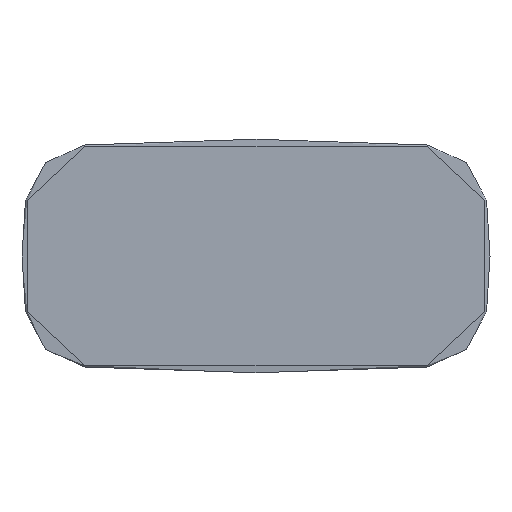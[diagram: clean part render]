
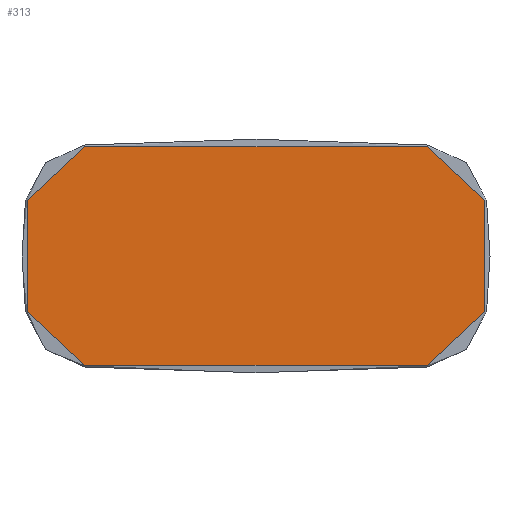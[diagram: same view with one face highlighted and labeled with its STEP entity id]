
A CAD part, top view. The second image highlights one B-rep face of the part: STEP entity #313.
In plain terms, the highlighted planar face has unit normal (0, 0, 1).
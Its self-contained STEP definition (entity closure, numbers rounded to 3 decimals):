
#119=(
BOUNDED_CURVE()
B_SPLINE_CURVE(2,(#17162,#17163,#17164),.UNSPECIFIED.,.F.,.F.)
B_SPLINE_CURVE_WITH_KNOTS((3,3),(0.,289.994),.UNSPECIFIED.)
CURVE()
GEOMETRIC_REPRESENTATION_ITEM()
RATIONAL_B_SPLINE_CURVE((1.,0.779,1.))
REPRESENTATION_ITEM('')
);
#125=(
BOUNDED_CURVE()
B_SPLINE_CURVE(2,(#17180,#17181,#17182),.UNSPECIFIED.,.F.,.F.)
B_SPLINE_CURVE_WITH_KNOTS((3,3),(0.,380.569),
 .UNSPECIFIED.)
CURVE()
GEOMETRIC_REPRESENTATION_ITEM()
RATIONAL_B_SPLINE_CURVE((1.,0.99,1.))
REPRESENTATION_ITEM('')
);
#130=(
BOUNDED_CURVE()
B_SPLINE_CURVE(2,(#17195,#17196,#17197),.UNSPECIFIED.,.F.,.F.)
B_SPLINE_CURVE_WITH_KNOTS((3,3),(0.,289.994),.UNSPECIFIED.)
CURVE()
GEOMETRIC_REPRESENTATION_ITEM()
RATIONAL_B_SPLINE_CURVE((1.,0.779,1.))
REPRESENTATION_ITEM('')
);
#135=(
BOUNDED_CURVE()
B_SPLINE_CURVE(2,(#17210,#17211,#17212),.UNSPECIFIED.,.F.,.F.)
B_SPLINE_CURVE_WITH_KNOTS((3,3),(0.,1169.53),.UNSPECIFIED.)
CURVE()
GEOMETRIC_REPRESENTATION_ITEM()
RATIONAL_B_SPLINE_CURVE((1.,0.997,1.))
REPRESENTATION_ITEM('')
);
#140=(
BOUNDED_CURVE()
B_SPLINE_CURVE(2,(#17225,#17226,#17227),.UNSPECIFIED.,.F.,.F.)
B_SPLINE_CURVE_WITH_KNOTS((3,3),(0.,289.994),.UNSPECIFIED.)
CURVE()
GEOMETRIC_REPRESENTATION_ITEM()
RATIONAL_B_SPLINE_CURVE((1.,0.779,1.))
REPRESENTATION_ITEM('')
);
#145=(
BOUNDED_CURVE()
B_SPLINE_CURVE(2,(#17240,#17241,#17242),.UNSPECIFIED.,.F.,.F.)
B_SPLINE_CURVE_WITH_KNOTS((3,3),(0.,380.569),.UNSPECIFIED.)
CURVE()
GEOMETRIC_REPRESENTATION_ITEM()
RATIONAL_B_SPLINE_CURVE((1.,0.99,1.))
REPRESENTATION_ITEM('')
);
#150=(
BOUNDED_CURVE()
B_SPLINE_CURVE(2,(#17255,#17256,#17257),.UNSPECIFIED.,.F.,.F.)
B_SPLINE_CURVE_WITH_KNOTS((3,3),(0.,289.994),.UNSPECIFIED.)
CURVE()
GEOMETRIC_REPRESENTATION_ITEM()
RATIONAL_B_SPLINE_CURVE((1.,0.779,1.))
REPRESENTATION_ITEM('')
);
#153=(
BOUNDED_CURVE()
B_SPLINE_CURVE(2,(#17264,#17265,#17266),.UNSPECIFIED.,.F.,.F.)
B_SPLINE_CURVE_WITH_KNOTS((3,3),(0.,1169.53),.UNSPECIFIED.)
CURVE()
GEOMETRIC_REPRESENTATION_ITEM()
RATIONAL_B_SPLINE_CURVE((1.,0.997,1.))
REPRESENTATION_ITEM('')
);
#313=ADVANCED_FACE('',(#470),#2286,.T.);
#470=FACE_OUTER_BOUND('',#627,.T.);
#627=EDGE_LOOP('',(#1256,#1257,#1258,#1259,#1260,#1261,#1262,#1263));
#1256=ORIENTED_EDGE('',*,*,#1704,.T.);
#1257=ORIENTED_EDGE('',*,*,#1707,.T.);
#1258=ORIENTED_EDGE('',*,*,#1673,.T.);
#1259=ORIENTED_EDGE('',*,*,#1679,.T.);
#1260=ORIENTED_EDGE('',*,*,#1684,.T.);
#1261=ORIENTED_EDGE('',*,*,#1689,.T.);
#1262=ORIENTED_EDGE('',*,*,#1694,.T.);
#1263=ORIENTED_EDGE('',*,*,#1699,.T.);
#1673=EDGE_CURVE('',#2252,#2253,#119,.T.);
#1679=EDGE_CURVE('',#2253,#2249,#125,.T.);
#1684=EDGE_CURVE('',#2249,#2250,#130,.T.);
#1689=EDGE_CURVE('',#2250,#2251,#135,.T.);
#1694=EDGE_CURVE('',#2251,#2248,#140,.T.);
#1699=EDGE_CURVE('',#2248,#2246,#145,.T.);
#1704=EDGE_CURVE('',#2246,#2247,#150,.T.);
#1707=EDGE_CURVE('',#2247,#2252,#153,.T.);
#2246=VERTEX_POINT('',#17131);
#2247=VERTEX_POINT('',#17132);
#2248=VERTEX_POINT('',#17133);
#2249=VERTEX_POINT('',#17134);
#2250=VERTEX_POINT('',#17135);
#2251=VERTEX_POINT('',#17136);
#2252=VERTEX_POINT('',#17137);
#2253=VERTEX_POINT('',#17138);
#2286=PLANE('',#2531);
#2531=AXIS2_PLACEMENT_3D('',#16978,#2567,$);
#2567=DIRECTION('',(0.,0.,1.));
#16978=CARTESIAN_POINT('',(271.972,-895.243,58.434));
#17131=CARTESIAN_POINT('',(2052.424,-205.603,58.434));
#17132=CARTESIAN_POINT('',(1856.216,-22.593,58.434));
#17133=CARTESIAN_POINT('',(2052.424,-584.883,58.434));
#17134=CARTESIAN_POINT('',(491.519,-584.883,58.434));
#17135=CARTESIAN_POINT('',(687.727,-767.893,58.434));
#17136=CARTESIAN_POINT('',(1856.216,-767.893,58.434));
#17137=CARTESIAN_POINT('',(687.727,-22.593,58.434));
#17138=CARTESIAN_POINT('',(491.519,-205.603,58.434));
#17162=CARTESIAN_POINT('',(687.727,-22.593,58.434));
#17163=CARTESIAN_POINT('',(515.995,-35.161,58.434));
#17164=CARTESIAN_POINT('',(491.519,-205.603,58.434));
#17180=CARTESIAN_POINT('',(491.519,-205.603,58.434));
#17181=CARTESIAN_POINT('',(464.286,-395.243,58.434));
#17182=CARTESIAN_POINT('',(491.519,-584.883,58.434));
#17195=CARTESIAN_POINT('',(491.519,-584.883,58.434));
#17196=CARTESIAN_POINT('',(515.995,-755.325,58.434));
#17197=CARTESIAN_POINT('',(687.727,-767.893,58.434));
#17210=CARTESIAN_POINT('',(687.727,-767.893,58.434));
#17211=CARTESIAN_POINT('',(1271.972,-810.65,58.434));
#17212=CARTESIAN_POINT('',(1856.216,-767.893,58.434));
#17225=CARTESIAN_POINT('',(1856.216,-767.893,58.434));
#17226=CARTESIAN_POINT('',(2027.948,-755.325,58.434));
#17227=CARTESIAN_POINT('',(2052.424,-584.883,58.434));
#17240=CARTESIAN_POINT('',(2052.424,-584.883,58.434));
#17241=CARTESIAN_POINT('',(2079.657,-395.243,58.434));
#17242=CARTESIAN_POINT('',(2052.424,-205.603,58.434));
#17255=CARTESIAN_POINT('',(2052.424,-205.603,58.434));
#17256=CARTESIAN_POINT('',(2027.948,-35.161,58.434));
#17257=CARTESIAN_POINT('',(1856.216,-22.593,58.434));
#17264=CARTESIAN_POINT('',(1856.216,-22.593,58.434));
#17265=CARTESIAN_POINT('',(1271.972,20.164,58.434));
#17266=CARTESIAN_POINT('',(687.727,-22.593,58.434));
